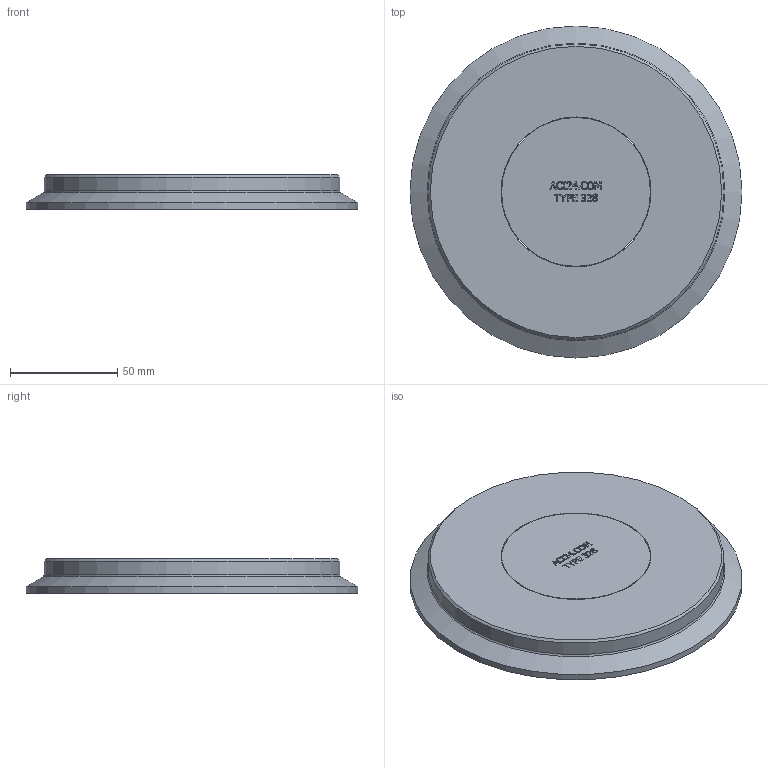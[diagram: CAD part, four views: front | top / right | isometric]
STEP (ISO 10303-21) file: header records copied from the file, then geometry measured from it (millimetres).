
FILE_DESCRIPTION(/* description */ ('ACI Typ 328 DN 125 PN 6'),/* implementation_level */ '2;1');
FILE_NAME(/* name */ 'C:\Users\willms\Desktop\ACI-328-125-6.stp',/* time_stamp */ '2020-09-01T16:23:47+02:00',/* author */ ('götz'),/* organization */ ('ACI Industriearmaturen GmbH info@aci24.com www.aci24.com'),/* preprocessor_version */ 'ST-DEVELOPER v16.1',/* originating_system */ 'Autodesk Inventor 2016',/* authorisation */ 'ACI Industriearmaturen GmbH info@aci24.com www.aci24.com');
FILE_SCHEMA (('CONFIG_CONTROL_DESIGN'));
Length unit declared in the file: centimetre
Products named in the file (1): ACI-328-125-6
Bounding box: 155 x 155 x 16 mm (x, y, z)
Volume: 258591 mm3; surface area: 50691.2 mm2
Topology: 2 solids, 2 shells, 270 faces, 725 edges, 482 vertices
Faces by surface type: plane 147, bspline 114, cylinder 4, cone 4, torus 1
Full cylindrical faces by diameter (mm): 69.5 x1, 70 x1, 138 x1, 155 x1
Entity records: 8972 total; most frequent: CARTESIAN_POINT 2951, ORIENTED_EDGE 1432, DIRECTION 816, EDGE_CURVE 716, VERTEX_POINT 482, LINE 474, VECTOR 474, EDGE_LOOP 304
